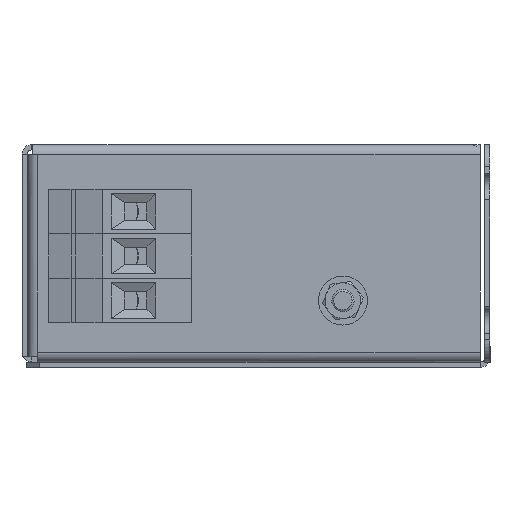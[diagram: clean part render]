
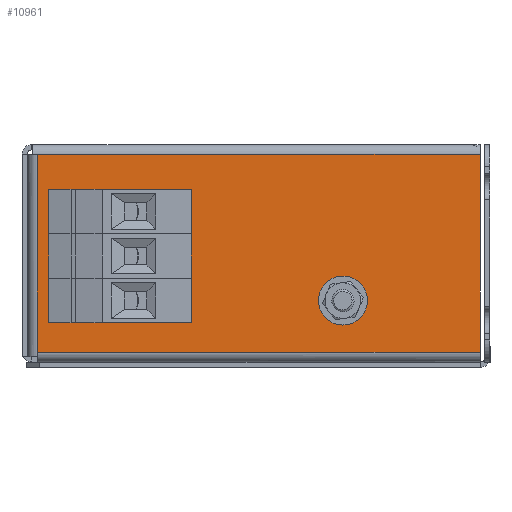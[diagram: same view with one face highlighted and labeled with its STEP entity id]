
A CAD part, left-side view. The second image highlights one B-rep face of the part: STEP entity #10961.
In plain terms, the highlighted planar face has unit normal (-1, 0, 0).
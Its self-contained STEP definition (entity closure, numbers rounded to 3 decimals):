
#105 = VERTEX_POINT ( 'NONE', #669 ) ;
#126 = CIRCLE ( 'NONE', #4800, 4.15 ) ;
#222 = CARTESIAN_POINT ( 'NONE',  ( -2.2, 30.8, -31.3 ) ) ;
#287 = EDGE_LOOP ( 'NONE', ( #11088, #1717 ) ) ;
#461 = VERTEX_POINT ( 'NONE', #2417 ) ;
#538 = CARTESIAN_POINT ( 'NONE',  ( -2.2, 99.35, -1. ) ) ;
#669 = CARTESIAN_POINT ( 'NONE',  ( -2.2, 99.35, -45.4 ) ) ;
#790 = DIRECTION ( 'NONE',  ( 0., 0., 1. ) ) ;
#842 = EDGE_CURVE ( 'NONE', #3892, #11634, #9887, .T. ) ;
#1079 = VERTEX_POINT ( 'NONE', #222 ) ;
#1553 = DIRECTION ( 'NONE',  ( 1., 0., 0. ) ) ;
#1717 = ORIENTED_EDGE ( 'NONE', *, *, #6485, .T. ) ;
#1877 = AXIS2_PLACEMENT_3D ( 'NONE', #2988, #3117, #1999 ) ;
#1935 = DIRECTION ( 'NONE',  ( 1., 0., 0. ) ) ;
#1953 = DIRECTION ( 'NONE',  ( 1., 0., 0. ) ) ;
#1999 = DIRECTION ( 'NONE',  ( 0., 0., -1. ) ) ;
#2030 = CARTESIAN_POINT ( 'NONE',  ( -2.2, 80.8, -19.65 ) ) ;
#2155 = DIRECTION ( 'NONE',  ( 0., -1., 0. ) ) ;
#2170 = VECTOR ( 'NONE', #2155, 1000. ) ;
#2257 = ORIENTED_EDGE ( 'NONE', *, *, #5134, .T. ) ;
#2417 = CARTESIAN_POINT ( 'NONE',  ( -2.2, 80.8, -17.95 ) ) ;
#2497 = LINE ( 'NONE', #4372, #2170 ) ;
#2794 = DIRECTION ( 'NONE',  ( 0., 0., -1. ) ) ;
#2988 = CARTESIAN_POINT ( 'NONE',  ( -2.2, 80.8, -33.8 ) ) ;
#3049 = VERTEX_POINT ( 'NONE', #6857 ) ;
#3117 = DIRECTION ( 'NONE',  ( 1., 0., 0. ) ) ;
#3229 = ORIENTED_EDGE ( 'NONE', *, *, #5387, .T. ) ;
#3433 = ORIENTED_EDGE ( 'NONE', *, *, #9168, .F. ) ;
#3441 = EDGE_LOOP ( 'NONE', ( #3806, #5256 ) ) ;
#3503 = DIRECTION ( 'NONE',  ( 0., -1., 0. ) ) ;
#3589 = VECTOR ( 'NONE', #790, 1000. ) ;
#3709 = ORIENTED_EDGE ( 'NONE', *, *, #9790, .T. ) ;
#3744 = EDGE_CURVE ( 'NONE', #8648, #7276, #9553, .T. ) ;
#3806 = ORIENTED_EDGE ( 'NONE', *, *, #6021, .T. ) ;
#3892 = VERTEX_POINT ( 'NONE', #7271 ) ;
#3922 = LINE ( 'NONE', #538, #6046 ) ;
#3995 = DIRECTION ( 'NONE',  ( 1., 0., 0. ) ) ;
#4022 = CARTESIAN_POINT ( 'NONE',  ( -2.2, 0., -1. ) ) ;
#4372 = CARTESIAN_POINT ( 'NONE',  ( -2.2, 0., -1. ) ) ;
#4524 = DIRECTION ( 'NONE',  ( 1., 0., 0. ) ) ;
#4545 = DIRECTION ( 'NONE',  ( 0., 0., -1. ) ) ;
#4800 = AXIS2_PLACEMENT_3D ( 'NONE', #9069, #1935, #2794 ) ;
#4992 = VERTEX_POINT ( 'NONE', #10429 ) ;
#5027 = CARTESIAN_POINT ( 'NONE',  ( -2.2, 30.8, -33.8 ) ) ;
#5134 = EDGE_CURVE ( 'NONE', #105, #8648, #7773, .T. ) ;
#5256 = ORIENTED_EDGE ( 'NONE', *, *, #10014, .T. ) ;
#5291 = VERTEX_POINT ( 'NONE', #13010 ) ;
#5387 = EDGE_CURVE ( 'NONE', #10532, #1079, #9359, .T. ) ;
#5482 = ORIENTED_EDGE ( 'NONE', *, *, #6037, .T. ) ;
#5661 = CARTESIAN_POINT ( 'NONE',  ( -2.2, 80.8, -23.8 ) ) ;
#5709 = CARTESIAN_POINT ( 'NONE',  ( -2.2, 80.8, -33.8 ) ) ;
#5949 = DIRECTION ( 'NONE',  ( 1., 0., 0. ) ) ;
#5960 = CARTESIAN_POINT ( 'NONE',  ( -2.2, 0., 0. ) ) ;
#5968 = ORIENTED_EDGE ( 'NONE', *, *, #8982, .T. ) ;
#6021 = EDGE_CURVE ( 'NONE', #461, #5291, #8694, .T. ) ;
#6037 = EDGE_CURVE ( 'NONE', #1079, #10532, #12994, .T. ) ;
#6046 = VECTOR ( 'NONE', #8841, 1000. ) ;
#6111 = DIRECTION ( 'NONE',  ( 0., 0., -1. ) ) ;
#6275 = CARTESIAN_POINT ( 'NONE',  ( -2.2, 80.8, -29.65 ) ) ;
#6447 = ORIENTED_EDGE ( 'NONE', *, *, #13112, .T. ) ;
#6485 = EDGE_CURVE ( 'NONE', #11634, #3892, #10255, .T. ) ;
#6524 = DIRECTION ( 'NONE',  ( 0., 0., -1. ) ) ;
#6573 = AXIS2_PLACEMENT_3D ( 'NONE', #8742, #1553, #4545 ) ;
#6583 = FACE_OUTER_BOUND ( 'NONE', #12845, .T. ) ;
#6757 = DIRECTION ( 'NONE',  ( 0., 0., -1. ) ) ;
#6857 = CARTESIAN_POINT ( 'NONE',  ( -2.2, 80.8, -27.95 ) ) ;
#7129 = AXIS2_PLACEMENT_3D ( 'NONE', #5027, #1953, #10259 ) ;
#7190 = DIRECTION ( 'NONE',  ( 0., 0., -1. ) ) ;
#7271 = CARTESIAN_POINT ( 'NONE',  ( -2.2, 80.8, -37.95 ) ) ;
#7276 = VERTEX_POINT ( 'NONE', #4022 ) ;
#7773 = LINE ( 'NONE', #12832, #11253 ) ;
#8648 = VERTEX_POINT ( 'NONE', #9748 ) ;
#8694 = CIRCLE ( 'NONE', #11380, 4.15 ) ;
#8742 = CARTESIAN_POINT ( 'NONE',  ( -2.2, 100.35, 0. ) ) ;
#8841 = DIRECTION ( 'NONE',  ( 0., 0., -1. ) ) ;
#8982 = EDGE_CURVE ( 'NONE', #12916, #3049, #10383, .T. ) ;
#9069 = CARTESIAN_POINT ( 'NONE',  ( -2.2, 80.8, -13.8 ) ) ;
#9129 = CARTESIAN_POINT ( 'NONE',  ( -2.2, 30.8, -33.8 ) ) ;
#9168 = EDGE_CURVE ( 'NONE', #4992, #7276, #2497, .T. ) ;
#9353 = EDGE_LOOP ( 'NONE', ( #3709, #5968 ) ) ;
#9359 = CIRCLE ( 'NONE', #13100, 2.5 ) ;
#9553 = LINE ( 'NONE', #5960, #3589 ) ;
#9748 = CARTESIAN_POINT ( 'NONE',  ( -2.2, 0., -45.4 ) ) ;
#9790 = EDGE_CURVE ( 'NONE', #3049, #12916, #12198, .T. ) ;
#9887 = CIRCLE ( 'NONE', #1877, 4.15 ) ;
#9982 = EDGE_LOOP ( 'NONE', ( #3229, #5482 ) ) ;
#10014 = EDGE_CURVE ( 'NONE', #5291, #461, #126, .T. ) ;
#10154 = DIRECTION ( 'NONE',  ( 0., 0., -1. ) ) ;
#10255 = CIRCLE ( 'NONE', #10615, 4.15 ) ;
#10259 = DIRECTION ( 'NONE',  ( 0., 0., -1. ) ) ;
#10383 = CIRCLE ( 'NONE', #11483, 4.15 ) ;
#10429 = CARTESIAN_POINT ( 'NONE',  ( -2.2, 99.35, -1. ) ) ;
#10532 = VERTEX_POINT ( 'NONE', #12979 ) ;
#10575 = FACE_BOUND ( 'NONE', #9982, .T. ) ;
#10615 = AXIS2_PLACEMENT_3D ( 'NONE', #5709, #12856, #6757 ) ;
#10635 = AXIS2_PLACEMENT_3D ( 'NONE', #5661, #4524, #6524 ) ;
#10777 = PLANE ( 'NONE',  #6573 ) ;
#10961 = ADVANCED_FACE ( 'NONE', ( #10575, #12310, #11201, #11352, #6583 ), #10777, .F. ) ;
#11088 = ORIENTED_EDGE ( 'NONE', *, *, #842, .T. ) ;
#11146 = CARTESIAN_POINT ( 'NONE',  ( -2.2, 80.8, -23.8 ) ) ;
#11201 = FACE_BOUND ( 'NONE', #287, .T. ) ;
#11253 = VECTOR ( 'NONE', #3503, 1000. ) ;
#11290 = CARTESIAN_POINT ( 'NONE',  ( -2.2, 80.8, -13.8 ) ) ;
#11352 = FACE_BOUND ( 'NONE', #9353, .T. ) ;
#11380 = AXIS2_PLACEMENT_3D ( 'NONE', #11290, #13169, #6111 ) ;
#11453 = ORIENTED_EDGE ( 'NONE', *, *, #3744, .T. ) ;
#11483 = AXIS2_PLACEMENT_3D ( 'NONE', #11146, #3995, #7190 ) ;
#11634 = VERTEX_POINT ( 'NONE', #6275 ) ;
#12198 = CIRCLE ( 'NONE', #10635, 4.15 ) ;
#12310 = FACE_BOUND ( 'NONE', #3441, .T. ) ;
#12832 = CARTESIAN_POINT ( 'NONE',  ( -2.2, 99.35, -45.4 ) ) ;
#12845 = EDGE_LOOP ( 'NONE', ( #2257, #11453, #3433, #6447 ) ) ;
#12856 = DIRECTION ( 'NONE',  ( 1., 0., 0. ) ) ;
#12916 = VERTEX_POINT ( 'NONE', #2030 ) ;
#12979 = CARTESIAN_POINT ( 'NONE',  ( -2.2, 30.8, -36.3 ) ) ;
#12994 = CIRCLE ( 'NONE', #7129, 2.5 ) ;
#13010 = CARTESIAN_POINT ( 'NONE',  ( -2.2, 80.8, -9.65 ) ) ;
#13100 = AXIS2_PLACEMENT_3D ( 'NONE', #9129, #5949, #10154 ) ;
#13112 = EDGE_CURVE ( 'NONE', #4992, #105, #3922, .T. ) ;
#13169 = DIRECTION ( 'NONE',  ( 1., 0., 0. ) ) ;
